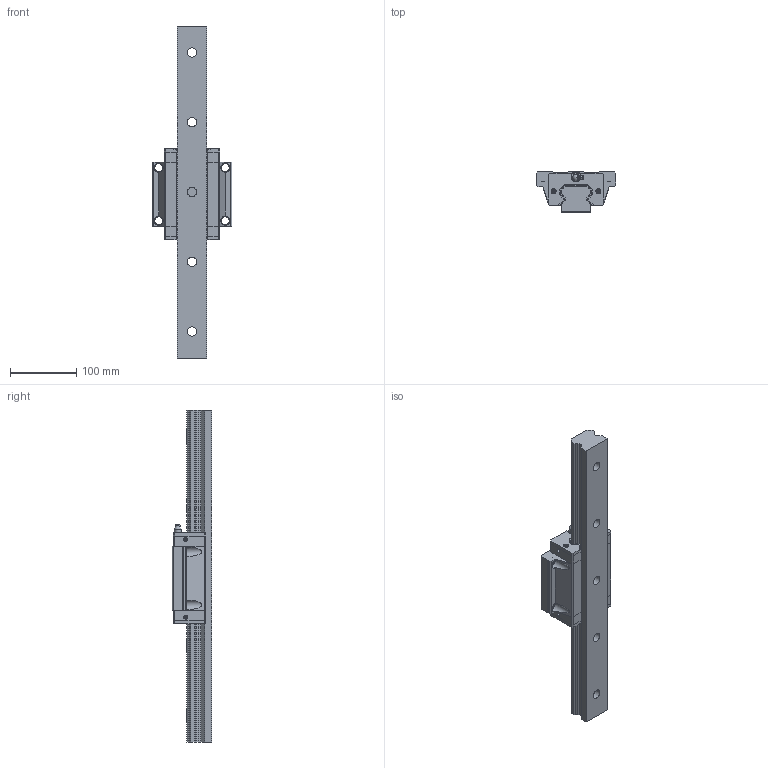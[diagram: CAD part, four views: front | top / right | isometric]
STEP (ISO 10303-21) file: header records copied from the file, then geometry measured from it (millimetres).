
FILE_DESCRIPTION(/* description */ ('STEP AP203'),/* implementation_level */ '2;1');
FILE_NAME(/* name */ 'D:\FOLDER Tomasz Michałek\pliki z pulpitu\Katalogi inne\Technika liniowa\NATECH\Modele 3D\NATECH linear block 3D drawing\NGW\NGW45CC\NGW45CC1R500.stp',/* time_stamp */ '2021-01-21T17:02:15+01:00',/* author */ ('dnia_tomasz_tm'),/* organization */ ('IT'),/* preprocessor_version */ 'ST-DEVELOPER v16.13',/* originating_system */ 'Autodesk Inventor 2018',/* authorisation */ '');
FILE_SCHEMA (('AUTOMOTIVE_DESIGN { 1 0 10303 214 3 1 1 }'));
Length unit declared in the file: millimetre
Products named in the file (3): NGW45CC1R500ZACI; GHW45CC1R500ZACI_1_GHW45CC; GHW45CC1R500ZACI_2_GHW45CC
Assembly tree (2 placements, depth 2):
  NGW45CC1R500ZACI
    GHW45CC1R500ZACI_1_GHW45CC
    GHW45CC1R500ZACI_2_GHW45CC
Bounding box: 120 x 60 x 500 mm (x, y, z)
Volume: 1225859.9 mm3; surface area: 183197.6 mm2
Topology: 7 solids, 7 shells, 420 faces, 1102 edges, 727 vertices
Faces by surface type: plane 322, cylinder 64, cone 19, torus 9, sphere 5, bspline 1
Full cylindrical faces by diameter (mm): 0.818 x4, 4.5 x1, 6.06 x6, 6.384 x4, 7.98 x4, 10 x1, 12 x4, 14 x5, 14.4 x4, 20 x5
Entity records: 12624 total; most frequent: CARTESIAN_POINT 2286, ORIENTED_EDGE 2086, DIRECTION 2068, EDGE_CURVE 1043, LINE 792, VECTOR 792, VERTEX_POINT 718, AXIS2_PLACEMENT_3D 638
